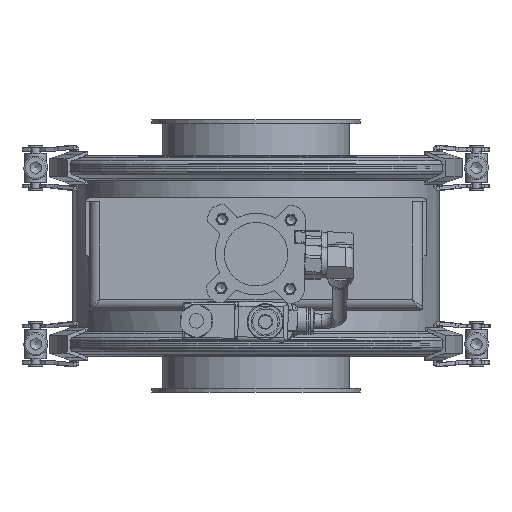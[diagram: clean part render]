
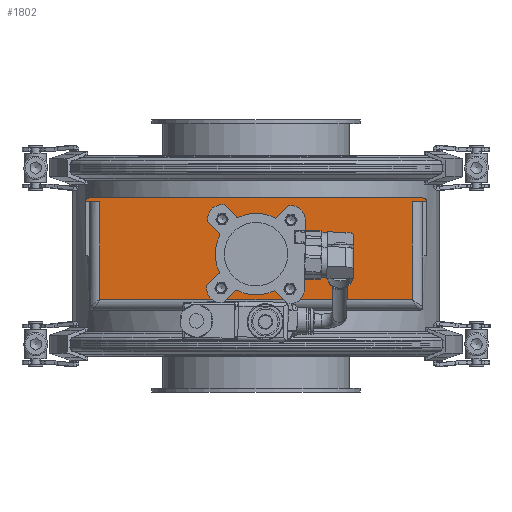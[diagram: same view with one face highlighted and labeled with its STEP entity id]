
A CAD part, left-side view. The second image highlights one B-rep face of the part: STEP entity #1802.
In plain terms, the highlighted planar face has unit normal (-1, 0, 0).
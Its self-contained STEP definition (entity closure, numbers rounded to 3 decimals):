
#859=CARTESIAN_POINT('',(-371.677,-86.,-24.));
#860=VERTEX_POINT('',#859);
#900=CARTESIAN_POINT('',(-371.677,-86.,30.));
#901=VERTEX_POINT('',#900);
#909=CARTESIAN_POINT('',(-371.677,-86.,30.));
#910=DIRECTION('',(0.0,0.0,-1.0));
#911=VECTOR('',#910,54.);
#912=LINE('',#909,#911);
#913=EDGE_CURVE('',#901,#860,#912,.T.);
#965=CARTESIAN_POINT('',(-371.677,86.,-24.0));
#966=VERTEX_POINT('',#965);
#990=CARTESIAN_POINT('',(-371.677,-86.,-24.));
#991=DIRECTION('',(0.0,1.0,0.0));
#992=VECTOR('',#991,172.);
#993=LINE('',#990,#992);
#994=EDGE_CURVE('',#860,#966,#993,.T.);
#1012=CARTESIAN_POINT('',(-371.677,86.,30.));
#1013=VERTEX_POINT('',#1012);
#1014=CARTESIAN_POINT('',(-371.677,86.,-24.0));
#1015=DIRECTION('',(0.0,0.0,1.0));
#1016=VECTOR('',#1015,54.0);
#1017=LINE('',#1014,#1016);
#1018=EDGE_CURVE('',#966,#1013,#1017,.T.);
#1261=CARTESIAN_POINT('',(-371.677,21.,-14.25));
#1262=VERTEX_POINT('',#1261);
#1263=CARTESIAN_POINT('',(-371.677,21.,-18.0));
#1264=DIRECTION('',(1.0,0.0,0.0));
#1265=DIRECTION('',(0.0,0.0,1.0));
#1266=AXIS2_PLACEMENT_3D('',#1263,#1264,#1265);
#1267=CIRCLE('',#1266,3.75);
#1268=EDGE_CURVE('',#1262,#1262,#1267,.T.);
#1310=CARTESIAN_POINT('',(-371.677,-17.,23.75));
#1311=VERTEX_POINT('',#1310);
#1312=CARTESIAN_POINT('',(-371.677,-17.,20.0));
#1313=DIRECTION('',(1.0,0.0,0.0));
#1314=DIRECTION('',(0.0,0.0,1.0));
#1315=AXIS2_PLACEMENT_3D('',#1312,#1313,#1314);
#1316=CIRCLE('',#1315,3.75);
#1317=EDGE_CURVE('',#1311,#1311,#1316,.T.);
#1359=CARTESIAN_POINT('',(-371.677,-19.,-14.25));
#1360=VERTEX_POINT('',#1359);
#1361=CARTESIAN_POINT('',(-371.677,-19.,-18.0));
#1362=DIRECTION('',(1.0,0.0,0.0));
#1363=DIRECTION('',(0.0,0.0,1.0));
#1364=AXIS2_PLACEMENT_3D('',#1361,#1362,#1363);
#1365=CIRCLE('',#1364,3.75);
#1366=EDGE_CURVE('',#1360,#1360,#1365,.T.);
#1408=CARTESIAN_POINT('',(-371.677,19.,23.75));
#1409=VERTEX_POINT('',#1408);
#1410=CARTESIAN_POINT('',(-371.677,19.,20.0));
#1411=DIRECTION('',(1.0,0.0,0.0));
#1412=DIRECTION('',(0.0,0.0,1.0));
#1413=AXIS2_PLACEMENT_3D('',#1410,#1411,#1412);
#1414=CIRCLE('',#1413,3.75);
#1415=EDGE_CURVE('',#1409,#1409,#1414,.T.);
#1457=CARTESIAN_POINT('',(-371.677,0.,19.5));
#1458=VERTEX_POINT('',#1457);
#1459=CARTESIAN_POINT('',(-371.677,0.,1.));
#1460=DIRECTION('',(1.0,0.0,0.0));
#1461=DIRECTION('',(0.0,0.0,1.0));
#1462=AXIS2_PLACEMENT_3D('',#1459,#1460,#1461);
#1463=CIRCLE('',#1462,18.5);
#1464=EDGE_CURVE('',#1458,#1458,#1463,.T.);
#1505=CARTESIAN_POINT('',(-371.677,94.,30.0));
#1506=VERTEX_POINT('',#1505);
#1507=CARTESIAN_POINT('',(-371.677,94.,30.0));
#1508=DIRECTION('',(0.0,-1.0,0.0));
#1509=VECTOR('',#1508,8.);
#1510=LINE('',#1507,#1509);
#1511=EDGE_CURVE('',#1506,#1013,#1510,.T.);
#1709=CARTESIAN_POINT('',(-371.677,-92.0,32.0));
#1710=VERTEX_POINT('',#1709);
#1711=CARTESIAN_POINT('',(-371.677,-94.,30.0));
#1712=VERTEX_POINT('',#1711);
#1713=CARTESIAN_POINT('',(-371.677,-92.,30.0));
#1714=DIRECTION('',(1.0,0.0,0.0));
#1715=DIRECTION('',(0.0,-0.707,0.707));
#1716=AXIS2_PLACEMENT_3D('',#1713,#1714,#1715);
#1717=CIRCLE('',#1716,2.);
#1718=EDGE_CURVE('',#1710,#1712,#1717,.T.);
#1754=CARTESIAN_POINT('',(-371.677,-94.,30.0));
#1755=DIRECTION('',(-1.0,0.0,0.0));
#1756=DIRECTION('',(0.0,0.0,1.0));
#1757=AXIS2_PLACEMENT_3D('',#1754,#1755,#1756);
#1758=PLANE('',#1757);
#1759=CARTESIAN_POINT('',(-371.677,-86.,30.0));
#1760=DIRECTION('',(0.0,-1.0,0.0));
#1761=VECTOR('',#1760,8.);
#1762=LINE('',#1759,#1761);
#1763=EDGE_CURVE('',#901,#1712,#1762,.T.);
#1764=ORIENTED_EDGE('',*,*,#1763,.T.);
#1765=ORIENTED_EDGE('',*,*,#1718,.F.);
#1766=CARTESIAN_POINT('',(-371.677,92.,32.0));
#1767=VERTEX_POINT('',#1766);
#1768=CARTESIAN_POINT('',(-371.677,-92.0,32.0));
#1769=DIRECTION('',(0.0,1.0,0.0));
#1770=VECTOR('',#1769,184.);
#1771=LINE('',#1768,#1770);
#1772=EDGE_CURVE('',#1710,#1767,#1771,.T.);
#1773=ORIENTED_EDGE('',*,*,#1772,.T.);
#1774=CARTESIAN_POINT('',(-371.677,92.,30.0));
#1775=DIRECTION('',(1.0,0.0,0.0));
#1776=DIRECTION('',(0.0,0.707,0.707));
#1777=AXIS2_PLACEMENT_3D('',#1774,#1775,#1776);
#1778=CIRCLE('',#1777,2.);
#1779=EDGE_CURVE('',#1506,#1767,#1778,.T.);
#1780=ORIENTED_EDGE('',*,*,#1779,.F.);
#1781=ORIENTED_EDGE('',*,*,#1511,.T.);
#1782=ORIENTED_EDGE('',*,*,#1018,.F.);
#1783=ORIENTED_EDGE('',*,*,#994,.F.);
#1784=ORIENTED_EDGE('',*,*,#913,.F.);
#1785=EDGE_LOOP('',(#1764,#1765,#1773,#1780,#1781,#1782,#1783,#1784));
#1786=FACE_OUTER_BOUND('',#1785,.T.);
#1787=ORIENTED_EDGE('',*,*,#1268,.T.);
#1788=EDGE_LOOP('',(#1787));
#1789=FACE_BOUND('',#1788,.T.);
#1790=ORIENTED_EDGE('',*,*,#1317,.T.);
#1791=EDGE_LOOP('',(#1790));
#1792=FACE_BOUND('',#1791,.T.);
#1793=ORIENTED_EDGE('',*,*,#1366,.T.);
#1794=EDGE_LOOP('',(#1793));
#1795=FACE_BOUND('',#1794,.T.);
#1796=ORIENTED_EDGE('',*,*,#1415,.T.);
#1797=EDGE_LOOP('',(#1796));
#1798=FACE_BOUND('',#1797,.T.);
#1799=ORIENTED_EDGE('',*,*,#1464,.T.);
#1800=EDGE_LOOP('',(#1799));
#1801=FACE_BOUND('',#1800,.T.);
#1802=ADVANCED_FACE('',(#1786,#1789,#1792,#1795,#1798,#1801),#1758,.T.);
